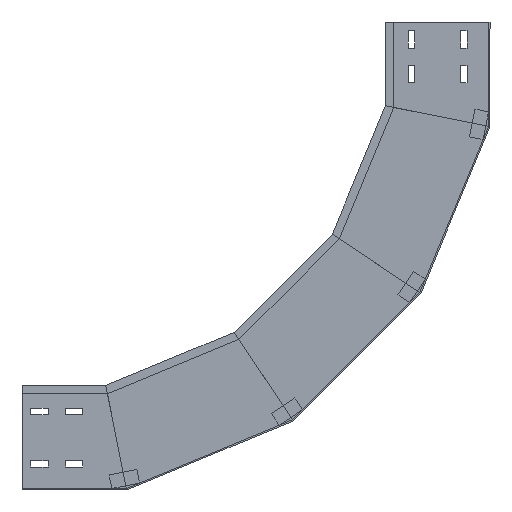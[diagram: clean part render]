
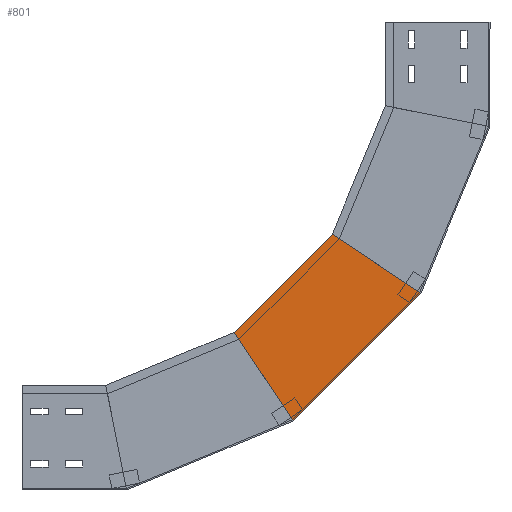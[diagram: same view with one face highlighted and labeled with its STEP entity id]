
A CAD part, left-side view. The second image highlights one B-rep face of the part: STEP entity #801.
In plain terms, the highlighted planar face has unit normal (-1, 0, 0) as drawn and (1, 0, 0) by its records, which use the part's own axes.
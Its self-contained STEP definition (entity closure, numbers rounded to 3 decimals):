
#112 = DIRECTION ( 'NONE',  ( 0., 0., 1. ) ) ;
#173 = CARTESIAN_POINT ( 'NONE',  ( 0., 99.115, -389.285 ) ) ;
#308 = ORIENTED_EDGE ( 'NONE', *, *, #1976, .T. ) ;
#388 = DIRECTION ( 'NONE',  ( 0., 0.707, -0.707 ) ) ;
#413 = VERTEX_POINT ( 'NONE', #173 ) ;
#471 = ORIENTED_EDGE ( 'NONE', *, *, #1672, .F. ) ;
#486 = LINE ( 'NONE', #1232, #1632 ) ;
#489 = PLANE ( 'NONE',  #1210 ) ;
#569 = VERTEX_POINT ( 'NONE', #2109 ) ;
#631 = LINE ( 'NONE', #794, #2425 ) ;
#657 = VECTOR ( 'NONE', #2096, 1000. ) ;
#673 = FACE_OUTER_BOUND ( 'NONE', #1624, .T. ) ;
#749 = ORIENTED_EDGE ( 'NONE', *, *, #1162, .F. ) ;
#784 = CARTESIAN_POINT ( 'NONE',  ( 0., 282.256, -572.425 ) ) ;
#794 = CARTESIAN_POINT ( 'NONE',  ( 0., 205.181, -283.219 ) ) ;
#801 = ADVANCED_FACE ( 'NONE', ( #673 ), #489, .F. ) ;
#949 = VERTEX_POINT ( 'NONE', #1282 ) ;
#988 = CARTESIAN_POINT ( 'NONE',  ( 0., 141.128, -361.213 ) ) ;
#1035 = DIRECTION ( 'NONE',  ( -1., 0., 0. ) ) ;
#1047 = CARTESIAN_POINT ( 'NONE',  ( 0., 99.115, -389.285 ) ) ;
#1106 = EDGE_CURVE ( 'NONE', #413, #1529, #1412, .T. ) ;
#1162 = EDGE_CURVE ( 'NONE', #569, #1529, #486, .T. ) ;
#1204 = ORIENTED_EDGE ( 'NONE', *, *, #1106, .T. ) ;
#1210 = AXIS2_PLACEMENT_3D ( 'NONE', #2370, #1035, #112 ) ;
#1232 = CARTESIAN_POINT ( 'NONE',  ( 0., 310.328, -530.413 ) ) ;
#1282 = CARTESIAN_POINT ( 'NONE',  ( 0., 226.279, -304.317 ) ) ;
#1412 = LINE ( 'NONE', #1047, #1478 ) ;
#1478 = VECTOR ( 'NONE', #1982, 1000. ) ;
#1529 = VERTEX_POINT ( 'NONE', #784 ) ;
#1624 = EDGE_LOOP ( 'NONE', ( #471, #308, #1204, #749 ) ) ;
#1632 = VECTOR ( 'NONE', #1973, 1000. ) ;
#1672 = EDGE_CURVE ( 'NONE', #949, #569, #631, .T. ) ;
#1885 = LINE ( 'NONE', #988, #657 ) ;
#1973 = DIRECTION ( 'NONE',  ( 0., -0.556, -0.831 ) ) ;
#1976 = EDGE_CURVE ( 'NONE', #949, #413, #1885, .T. ) ;
#1982 = DIRECTION ( 'NONE',  ( 0., 0.707, -0.707 ) ) ;
#2096 = DIRECTION ( 'NONE',  ( 0., -0.831, -0.556 ) ) ;
#2109 = CARTESIAN_POINT ( 'NONE',  ( 0., 367.224, -445.262 ) ) ;
#2370 = CARTESIAN_POINT ( 'NONE',  ( 0., 99.115, -389.285 ) ) ;
#2425 = VECTOR ( 'NONE', #388, 1000. ) ;
